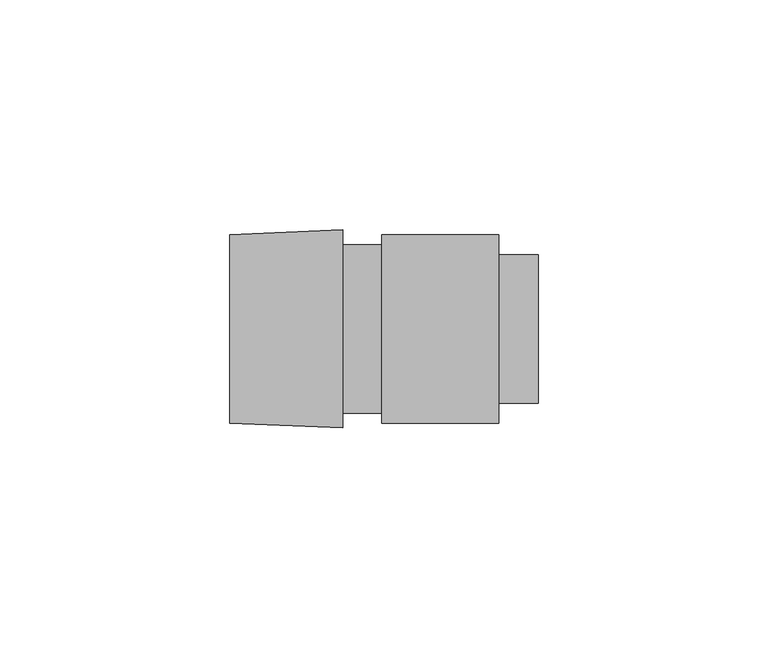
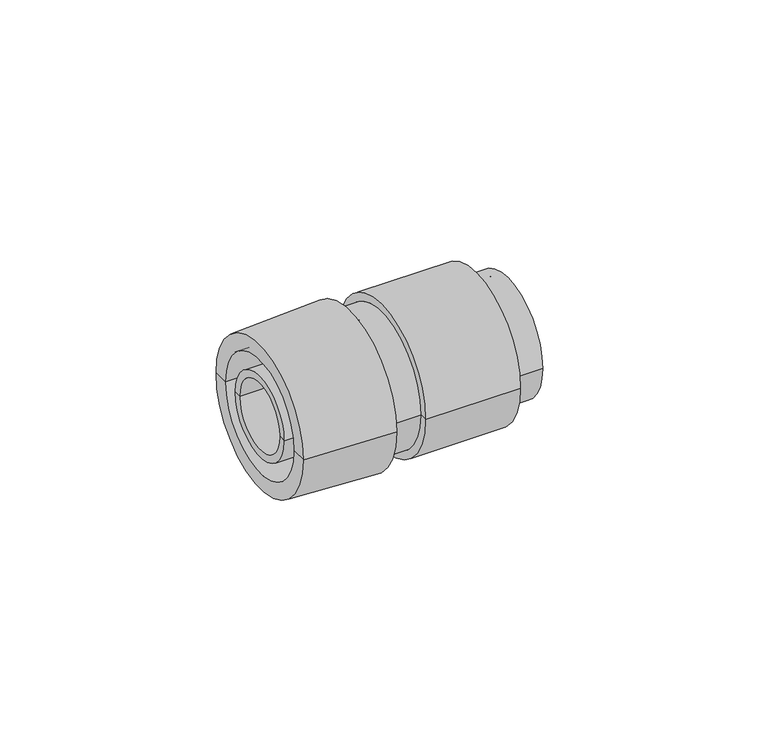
"""IFC4 building model written with IfcOpenShell, lengths in millimetres: cable carrier fitting geometry, КНС_ПереходникАрмированнаяТрубаКоробка_IP65_DKC : Коробка."""

import ifcopenshell
import ifcopenshell.guid

model = None  # the IFC model being written
_history = None  # IfcOwnerHistory: only IFC2X3 demands one
_inside = {}  # id of a spatial element -> (the spatial element, [elements in it])
_under = {}  # id of a project, library or spatial element -> (it, [spatial elements below it])
_declared = {}  # id of a project -> (the project, [libraries it declares])
_typed = {}  # id of a type object -> (the type object, [elements of that type])
_made_of = {}  # id of a material, layer set ... -> (it, [elements and type objects made of it])


def new_model(schema):
    """Start an empty IFC model of exactly this schema.

    Asked for "IFC4X3", IfcOpenShell would pick the latest addendum, in which some entities
    have other attributes; the version numbers below select the first issue.
    IFC2X3 requires an IfcOwnerHistory on every rooted entity: one is made here for all.
    """
    global model, _history
    if schema == "IFC4X3":
        model = ifcopenshell.file(schema_version=(4, 3, 0, 0))
    else:
        model = ifcopenshell.file(schema=schema)
    _inside.clear()
    _under.clear()
    _declared.clear()
    _typed.clear()
    _made_of.clear()
    _history = None
    if model.schema == "IFC2X3":
        org = make("IfcOrganization", Name="unknown")
        user = make(
            "IfcPersonAndOrganization",
            ThePerson=make("IfcPerson", FamilyName="unknown"),
            TheOrganization=org,
        )
        app = make(
            "IfcApplication",
            ApplicationDeveloper=org,
            Version="unknown",
            ApplicationFullName="unknown",
            ApplicationIdentifier="unknown",
        )
        _history = make(
            "IfcOwnerHistory",
            OwningUser=user,
            OwningApplication=app,
            ChangeAction="ADDED",
            CreationDate=0,
        )
    return model


def make(cls, **values):
    """One entity of the class cls with the attributes given. An attribute that is None is left unset."""
    return model.create_entity(
        cls, **{name: value for name, value in values.items() if value is not None}
    )


def rooted(cls, **values):
    """An entity with a GlobalId (a new one), such as an element, a storey or a relation."""
    return make(cls, GlobalId=ifcopenshell.guid.new(), OwnerHistory=_history, **values)


def si_unit(unit_type, name, prefix=None):
    """IfcSIUnit, for example si_unit("LENGTHUNIT", "METRE", prefix="MILLI")."""
    return make("IfcSIUnit", UnitType=unit_type, Prefix=prefix, Name=name)


def assignment(units):
    """IfcUnitAssignment: the units of a project."""
    return None if units is None else make("IfcUnitAssignment", Units=units)


def point(xyz):
    """IfcCartesianPoint."""
    return None if xyz is None else make("IfcCartesianPoint", Coordinates=xyz)


def direction(xyz):
    """IfcDirection."""
    return None if xyz is None else make("IfcDirection", DirectionRatios=xyz)


def frame(location, z_axis=None, x_axis=None):
    """IfcAxis2Placement3D, a coordinate frame: its origin and axes. An axis left out is left unset."""
    return make(
        "IfcAxis2Placement3D",
        Location=point(location),
        Axis=direction(z_axis),
        RefDirection=direction(x_axis),
    )


def origin():
    """The frame at (0, 0, 0) with its axes left unset."""
    return frame((0.0, 0.0, 0.0))


def place(relative_to, where):
    """IfcLocalPlacement: puts the frame where relative to a parent placement (None: the world)."""
    return make(
        "IfcLocalPlacement", PlacementRelTo=relative_to, RelativePlacement=where
    )


def context(
    kind, dimensions, precision=None, world=None, true_north=None, identifier=None
):
    """IfcGeometricRepresentationContext, for example the 3D "Model" context."""
    return make(
        "IfcGeometricRepresentationContext",
        ContextIdentifier=identifier,
        ContextType=kind,
        CoordinateSpaceDimension=dimensions,
        Precision=precision,
        WorldCoordinateSystem=world,
        TrueNorth=true_north,
    )


def project(units=None, contexts=None):
    """IfcProject with its units and contexts."""
    return rooted(
        "IfcProject",
        Name="project",
        RepresentationContexts=contexts,
        UnitsInContext=assignment(units),
    )


def spatial(cls, under=None, at=None, **own):
    """A site, building, storey or space (cls), placed at a placement, below another one or the project."""
    s = rooted(cls, ObjectPlacement=at, **own)
    if under is not None:
        _under.setdefault(under.id(), (under, []))[1].append(s)
    return s


def polyline(points):
    """IfcPolyline through the points."""
    return make("IfcPolyline", Points=[point(p) for p in points])


def circle_curve(where, radius):
    """IfcCircle in the frame where."""
    return make("IfcCircle", Position=where, Radius=radius)


def shape(context_of_items, identifier, shape_type, items):
    """IfcShapeRepresentation: the items that make up one representation, for example the "Body"."""
    return make(
        "IfcShapeRepresentation",
        ContextOfItems=context_of_items,
        RepresentationIdentifier=identifier,
        RepresentationType=shape_type,
        Items=items,
    )


def source(mapping_origin, context_of_items, identifier, shape_type, items):
    """IfcRepresentationMap: a shape defined once, which mapped items show again and again."""
    return make(
        "IfcRepresentationMap",
        MappingOrigin=mapping_origin,
        MappedRepresentation=shape(context_of_items, identifier, shape_type, items),
    )


def transform(
    local_origin,
    x_axis=None,
    y_axis=None,
    z_axis=None,
    scale=None,
    scale2=None,
    scale3=None,
    uniform=True,
):
    """IfcCartesianTransformationOperator3D, or its non-uniform kind. x_axis, y_axis, z_axis: its Axis1, 2, 3."""
    if uniform:
        return make(
            "IfcCartesianTransformationOperator3D",
            Axis1=direction(x_axis),
            Axis2=direction(y_axis),
            LocalOrigin=point(local_origin),
            Scale=scale,
            Axis3=direction(z_axis),
        )
    return make(
        "IfcCartesianTransformationOperator3DnonUniform",
        Axis1=direction(x_axis),
        Axis2=direction(y_axis),
        LocalOrigin=point(local_origin),
        Scale=scale,
        Axis3=direction(z_axis),
        Scale2=scale2,
        Scale3=scale3,
    )


def mapped(mapping_source, mapping_target):
    """IfcMappedItem: shows the shape of a source again, moved by a transform."""
    return make(
        "IfcMappedItem", MappingSource=mapping_source, MappingTarget=mapping_target
    )


def made_of(thing, what):
    """Note that an element or type object is made of a material, layer set ...; save() writes the relation."""
    if what is not None:
        _made_of.setdefault(what.id(), (what, []))[1].append(thing)
    return thing


def element(
    cls,
    number,
    at=None,
    inside=None,
    cuts=None,
    type_object=None,
    material=None,
    context=None,
    identifier="Body",
    shape_type=None,
    held_by="IfcProductDefinitionShape",
    body=None,
    shapes=None,
    **own,
):
    """One element of the class cls, such as IfcWall. Its Tag is "e" and its number.

    at: its placement. inside: the storey or other place that contains it. cuts: it is an
    opening in that element (IfcRelVoidsElement). A single representation is given by context,
    identifier, shape_type and body (its items); several are given by shapes. held_by: the class
    of the entity that holds the representations. save() writes the other relations.
    """
    e = rooted(cls, Tag="e%d" % number, ObjectPlacement=at, **own)
    if body is not None:
        shapes = [shape(context, identifier, shape_type, body)]
    if shapes is not None:
        e.Representation = make(held_by, Representations=shapes)
    if inside is not None:
        _inside.setdefault(inside.id(), (inside, []))[1].append(e)
    if cuts is not None:
        rooted(
            "IfcRelVoidsElement", RelatingBuildingElement=cuts, RelatedOpeningElement=e
        )
    if type_object is not None:
        _typed.setdefault(type_object.id(), (type_object, []))[1].append(e)
    return made_of(e, material)


def aggregate(whole, parts):
    """IfcRelAggregates: a whole, such as a stair, and the parts it consists of."""
    return rooted("IfcRelAggregates", RelatingObject=whole, RelatedObjects=parts)


def save(model, path):
    """Write the relations noted so far, then the file.

    IfcRelAggregates (storeys below a building ...), IfcRelContainedInSpatialStructure (elements
    in a storey), IfcRelDefinesByType, IfcRelAssociatesMaterial and IfcRelDeclares: one each for
    every whole, place, type object, material and project.
    """
    for whole, parts in _under.values():
        aggregate(whole, parts)
    for where, things in _inside.values():
        rooted(
            "IfcRelContainedInSpatialStructure",
            RelatedElements=things,
            RelatingStructure=where,
        )
    for kind, things in _typed.values():
        rooted("IfcRelDefinesByType", RelatedObjects=things, RelatingType=kind)
    for what, things in _made_of.values():
        rooted("IfcRelAssociatesMaterial", RelatedObjects=things, RelatingMaterial=what)
    for by, libraries in _declared.values():
        rooted("IfcRelDeclares", RelatingContext=by, RelatedDefinitions=libraries)
    model.write(path)


def plane_surface(at):
    """IfcPlane: the flat surface through the origin of the frame at, square to its z axis."""
    return make("IfcPlane", Position=at)


def cylinder_surface(at, radius):
    """IfcCylindricalSurface: all points at the distance radius from the z axis of the frame at."""
    return make("IfcCylindricalSurface", Position=at, Radius=radius)


def revolved_surface(curve, axis_point, axis_direction):
    """IfcSurfaceOfRevolution: the curve turned about the line through axis_point along axis_direction."""
    return make(
        "IfcSurfaceOfRevolution",
        SweptCurve=make("IfcArbitraryOpenProfileDef", ProfileType="CURVE", Curve=curve),
        AxisPosition=make("IfcAxis1Placement", Location=point(axis_point), Axis=direction(axis_direction)),
    )


def advanced_brep(points, edges, surfaces, faces):
    """IfcAdvancedBrep: a solid bounded by faces that lie on surfaces and meet in shared edges.

    An edge is (start, end): straight between two places in points (the first is 0);
    or (start, end, curve); or (start, end, curve, False) where it runs against its curve.
    A face is (place in surfaces, loops), or (place, loops, False) where it looks against
    its surface's normal. A loop lists edges by number (the first is 1), with a minus sign
    where the edge is run from its end to its start. The first loop is the outer one.
    """
    corners = [point(p) for p in points]
    vertices = [make("IfcVertexPoint", VertexGeometry=c) for c in corners]
    made = []
    for start, end, *more in edges:
        made.append(
            make(
                "IfcEdgeCurve",
                EdgeStart=vertices[start],
                EdgeEnd=vertices[end],
                EdgeGeometry=more[0] if more else make("IfcPolyline", Points=[corners[start], corners[end]]),
                SameSense=more[1] if len(more) > 1 else True,
            )
        )
    hull = []
    for where, loops, *sense in faces:
        bounds = []
        for j, loop in enumerate(loops):
            ring = [make("IfcOrientedEdge", EdgeElement=made[abs(k) - 1], Orientation=k > 0) for k in loop]
            bounds.append(
                make(
                    "IfcFaceOuterBound" if j == 0 else "IfcFaceBound",
                    Bound=make("IfcEdgeLoop", EdgeList=ring),
                    Orientation=True,
                )
            )
        hull.append(make("IfcAdvancedFace", Bounds=bounds, FaceSurface=surfaces[where], SameSense=sense[0] if sense else True))
    return make("IfcAdvancedBrep", Outer=make("IfcClosedShell", CfsFaces=hull))


def cable_carrier_fitting_377cf926(model_context):
    return source(origin(), model_context, "Body", "AdvancedBrep", [
        advanced_brep(
        [(42.5, -14.0853846, 0.0), (42.5, 14.0853846, 0.0), (0.0, 14.0853846, 0.0), (0.0, -14.0853846, 0.0), (42.5, -16.15, 0.0), (42.5, 16.15, 0.0), (34.0, -16.15, 0.0), (34.0, 16.15, 0.0), (34.0, -20.5, 0.0), (34.0, 20.5, 0.0), (8.5, -20.5, 0.0), (8.5, 20.5, 0.0), (8.5, -18.325, 0.0), (8.5, 18.325, 0.0), (0.0, -18.325, 0.0), (0.0, 18.325, 0.0)],
        [
            (0, 1, circle_curve(frame((42.5, 0.0, 0.0), z_axis=(1.0, 0.0, 0.0), x_axis=(0.0, 1.0, 0.0)), 14.0853846)),
            (1, 2),
            (2, 3, circle_curve(frame((0.0, 0.0, 0.0), z_axis=(-1.0, 0.0, 0.0), x_axis=(0.0, 1.0, 0.0)), 14.0853846)),
            (3, 0),
            (1, 0, circle_curve(frame((42.5, 0.0, 0.0), z_axis=(1.0, 0.0, 0.0), x_axis=(0.0, 1.0, 0.0)), 14.0853846)),
            (3, 2, circle_curve(frame((0.0, 0.0, 0.0), z_axis=(-1.0, 0.0, 0.0), x_axis=(0.0, 1.0, 0.0)), 14.0853846)),
            (4, 5, circle_curve(frame((42.5, 0.0, 0.0), z_axis=(1.0, 0.0, 0.0), x_axis=(0.0, 1.0, 0.0)), 16.15)),
            (5, 1),
            (0, 4),
            (5, 4, circle_curve(frame((42.5, 0.0, 0.0), z_axis=(1.0, 0.0, 0.0), x_axis=(0.0, 1.0, 0.0)), 16.15)),
            (6, 7, circle_curve(frame((34.0, 0.0, 0.0), z_axis=(1.0, 0.0, 0.0), x_axis=(0.0, 1.0, 0.0)), 16.15)),
            (7, 5),
            (4, 6),
            (7, 6, circle_curve(frame((34.0, 0.0, 0.0), z_axis=(1.0, 0.0, 0.0), x_axis=(0.0, 1.0, 0.0)), 16.15)),
            (8, 9, circle_curve(frame((34.0, 0.0, 0.0), z_axis=(1.0, 0.0, 0.0), x_axis=(0.0, 1.0, 0.0)), 20.5)),
            (9, 7),
            (6, 8),
            (9, 8, circle_curve(frame((34.0, 0.0, 0.0), z_axis=(1.0, 0.0, 0.0), x_axis=(0.0, 1.0, 0.0)), 20.5)),
            (10, 11, circle_curve(frame((8.5, 0.0, 0.0), z_axis=(1.0, 0.0, 0.0), x_axis=(0.0, 1.0, 0.0)), 20.5)),
            (11, 9),
            (8, 10),
            (11, 10, circle_curve(frame((8.5, 0.0, 0.0), z_axis=(1.0, 0.0, 0.0), x_axis=(0.0, 1.0, 0.0)), 20.5)),
            (12, 13, circle_curve(frame((8.5, 0.0, 0.0), z_axis=(1.0, 0.0, 0.0), x_axis=(0.0, 1.0, 0.0)), 18.325)),
            (13, 11),
            (10, 12),
            (13, 12, circle_curve(frame((8.5, 0.0, 0.0), z_axis=(1.0, 0.0, 0.0), x_axis=(0.0, 1.0, 0.0)), 18.325)),
            (14, 15, circle_curve(frame((0.0, 0.0, 0.0), z_axis=(1.0, 0.0, 0.0), x_axis=(0.0, 1.0, 0.0)), 18.325)),
            (15, 13),
            (12, 14),
            (15, 14, circle_curve(frame((0.0, 0.0, 0.0), z_axis=(1.0, 0.0, 0.0), x_axis=(0.0, 1.0, 0.0)), 18.325)),
            (2, 15),
            (14, 3),
        ],
        [
            revolved_surface(polyline([(0.0, 14.0853846, 0.0), (42.5, 14.0853846, 0.0)]), (1531.0, 0.0, 0.0), (-1.0, 0.0, 0.0)),
            plane_surface(frame((42.5, 0.0, 0.0), z_axis=(1.0, 0.0, 0.0), x_axis=(0.0, 1.0, 0.0))),
            cylinder_surface(frame((1531.0, 0.0, 0.0), z_axis=(-1.0, 0.0, 0.0), x_axis=(0.0, 1.0, 0.0)), 16.15),
            plane_surface(frame((34.0, 0.0, 0.0), z_axis=(1.0, 0.0, 0.0), x_axis=(0.0, 1.0, 0.0))),
            cylinder_surface(frame((1531.0, 0.0, 0.0), z_axis=(-1.0, 0.0, 0.0), x_axis=(0.0, 1.0, 0.0)), 20.5),
            plane_surface(frame((8.5, 0.0, 0.0), z_axis=(-1.0, 0.0, 0.0), x_axis=(0.0, 1.0, 0.0))),
            cylinder_surface(frame((1531.0, 0.0, 0.0), z_axis=(-1.0, 0.0, 0.0), x_axis=(0.0, 1.0, 0.0)), 18.325),
            plane_surface(frame((0.0, 0.0, 0.0), z_axis=(-1.0, 0.0, 0.0), x_axis=(0.0, 1.0, 0.0))),
        ],
        [
            (0, [[1, 2, 3, 4]]),
            (0, [[5, -4, 6, -2]]),
            (1, [[7, 8, -1, 9]]),
            (1, [[10, -9, -5, -8]]),
            (2, [[11, 12, -7, 13]]),
            (2, [[14, -13, -10, -12]]),
            (3, [[15, 16, -11, 17]]),
            (3, [[18, -17, -14, -16]]),
            (4, [[19, 20, -15, 21]]),
            (4, [[22, -21, -18, -20]]),
            (5, [[23, 24, -19, 25]]),
            (5, [[26, -25, -22, -24]]),
            (6, [[27, 28, -23, 29]]),
            (6, [[30, -29, -26, -28]]),
            (7, [[-3, 31, -27, 32]]),
            (7, [[-6, -32, -30, -31]]),
        ],
    ),
        advanced_brep(
        [(0.0, -21.5, 0.0), (0.0, 21.5, 0.0), (0.0, 16.15, 0.0), (0.0, -16.15, 0.0), (-24.5, -20.5, 0.0), (-24.5, 20.5, 0.0), (-24.5, -16.15, 0.0), (-24.5, 16.15, 0.0)],
        [
            (0, 1, circle_curve(frame((0.0, 0.0, 0.0), z_axis=(1.0, 0.0, 0.0), x_axis=(0.0, 1.0, 0.0)), 21.5)),
            (1, 2),
            (2, 3, circle_curve(frame((0.0, 0.0, 0.0), z_axis=(-1.0, 0.0, 0.0), x_axis=(0.0, 1.0, 0.0)), 16.15)),
            (3, 0),
            (1, 0, circle_curve(frame((0.0, 0.0, 0.0), z_axis=(1.0, 0.0, 0.0), x_axis=(0.0, 1.0, 0.0)), 21.5)),
            (3, 2, circle_curve(frame((0.0, 0.0, 0.0), z_axis=(-1.0, 0.0, 0.0), x_axis=(0.0, 1.0, 0.0)), 16.15)),
            (4, 5, circle_curve(frame((-24.5, 0.0, 0.0), z_axis=(1.0, 0.0, 0.0), x_axis=(0.0, 1.0, 0.0)), 20.5)),
            (5, 1),
            (0, 4),
            (5, 4, circle_curve(frame((-24.5, 0.0, 0.0), z_axis=(1.0, 0.0, 0.0), x_axis=(0.0, 1.0, 0.0)), 20.5)),
            (6, 7, circle_curve(frame((-24.5, 0.0, 0.0), z_axis=(1.0, 0.0, 0.0), x_axis=(0.0, 1.0, 0.0)), 16.15)),
            (7, 5),
            (4, 6),
            (7, 6, circle_curve(frame((-24.5, 0.0, 0.0), z_axis=(1.0, 0.0, 0.0), x_axis=(0.0, 1.0, 0.0)), 16.15)),
            (2, 7),
            (6, 3),
        ],
        [
            plane_surface(frame((0.0, 0.0, 0.0), z_axis=(1.0, 0.0, 0.0), x_axis=(0.0, 1.0, 0.0))),
            revolved_surface(polyline([(0.0, 21.5, 0.0), (-24.5, 20.5, 0.0)]), (1531.0, 0.0, 0.0), (-1.0, 0.0, 0.0)),
            plane_surface(frame((-24.5, 0.0, 0.0), z_axis=(-1.0, 0.0, 0.0), x_axis=(0.0, 1.0, 0.0))),
            revolved_surface(polyline([(-24.5, 16.15, 0.0), (0.0, 16.15, 0.0)]), (1531.0, 0.0, 0.0), (-1.0, 0.0, 0.0)),
        ],
        [
            (0, [[1, 2, 3, 4]]),
            (0, [[5, -4, 6, -2]]),
            (1, [[7, 8, -1, 9]]),
            (1, [[10, -9, -5, -8]]),
            (2, [[11, 12, -7, 13]]),
            (2, [[14, -13, -10, -12]]),
            (3, [[-3, 15, -11, 16]]),
            (3, [[-6, -16, -14, -15]]),
        ],
    ),
        advanced_brep(
        [(-24.5, -11.5, 0.0), (-24.5, 11.5, 0.0), (0.0, 11.5, 0.0), (0.0, -11.5, 0.0), (-24.5, -9.5, 0.0), (-24.5, 9.5, 0.0), (0.0, -9.5, 0.0), (0.0, 9.5, 0.0)],
        [
            (0, 1, circle_curve(frame((-24.5, 0.0, 0.0), z_axis=(1.0, 0.0, 0.0), x_axis=(0.0, 1.0, 0.0)), 11.5)),
            (1, 2),
            (2, 3, circle_curve(frame((0.0, 0.0, 0.0), z_axis=(-1.0, 0.0, 0.0), x_axis=(0.0, 1.0, 0.0)), 11.5)),
            (3, 0),
            (1, 0, circle_curve(frame((-24.5, 0.0, 0.0), z_axis=(1.0, 0.0, 0.0), x_axis=(0.0, 1.0, 0.0)), 11.5)),
            (3, 2, circle_curve(frame((0.0, 0.0, 0.0), z_axis=(-1.0, 0.0, 0.0), x_axis=(0.0, 1.0, 0.0)), 11.5)),
            (4, 5, circle_curve(frame((-24.5, 0.0, 0.0), z_axis=(1.0, 0.0, 0.0), x_axis=(0.0, 1.0, 0.0)), 9.5)),
            (5, 1),
            (0, 4),
            (5, 4, circle_curve(frame((-24.5, 0.0, 0.0), z_axis=(1.0, 0.0, 0.0), x_axis=(0.0, 1.0, 0.0)), 9.5)),
            (6, 7, circle_curve(frame((0.0, 0.0, 0.0), z_axis=(1.0, 0.0, 0.0), x_axis=(0.0, 1.0, 0.0)), 9.5)),
            (7, 5),
            (4, 6),
            (7, 6, circle_curve(frame((0.0, 0.0, 0.0), z_axis=(1.0, 0.0, 0.0), x_axis=(0.0, 1.0, 0.0)), 9.5)),
            (2, 7),
            (6, 3),
        ],
        [
            cylinder_surface(frame((1531.0, 0.0, 0.0), z_axis=(-1.0, 0.0, 0.0), x_axis=(0.0, 1.0, 0.0)), 11.5),
            plane_surface(frame((-24.5, 0.0, 0.0), z_axis=(-1.0, 0.0, 0.0), x_axis=(0.0, 1.0, 0.0))),
            revolved_surface(polyline([(-24.5, 9.5, 0.0), (0.0, 9.5, 0.0)]), (1531.0, 0.0, 0.0), (-1.0, 0.0, 0.0)),
            plane_surface(frame((0.0, 0.0, 0.0), z_axis=(1.0, 0.0, 0.0), x_axis=(0.0, 1.0, 0.0))),
        ],
        [
            (0, [[1, 2, 3, 4]]),
            (0, [[5, -4, 6, -2]]),
            (1, [[7, 8, -1, 9]]),
            (1, [[10, -9, -5, -8]]),
            (2, [[11, 12, -7, 13]]),
            (2, [[14, -13, -10, -12]]),
            (3, [[-3, 15, -11, 16]]),
            (3, [[-6, -16, -14, -15]]),
        ],
    ),
    ])


if __name__ == "__main__":
    model = new_model("IFC4")
    model_context = context("Model", 3, world=origin())
    ifc_project = project(units=[si_unit("LENGTHUNIT", "METRE", prefix="MILLI")], contexts=[model_context])
    site = spatial("IfcSite", under=ifc_project)
    building = spatial("IfcBuilding", under=site)
    placement = place(None, origin())
    cable_carrier_fitting_shape = cable_carrier_fitting_377cf926(model_context)
    element("IfcCableCarrierFitting", 1, ObjectType="КНС_ПереходникАрмированнаяТрубаКоробка_IP65_DKC : Коробка", at=placement, inside=building, context=model_context, shape_type="MappedRepresentation", body=[
        mapped(cable_carrier_fitting_shape, transform((0.0, 0.0, 0.0), x_axis=(1.0, 0.0, 0.0), y_axis=(0.0, 1.0, 0.0), z_axis=(0.0, 0.0, 1.0))),
    ])
    save(model, "model.ifc")
